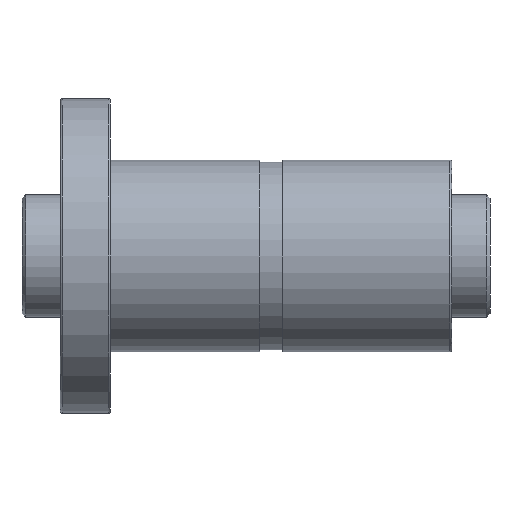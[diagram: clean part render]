
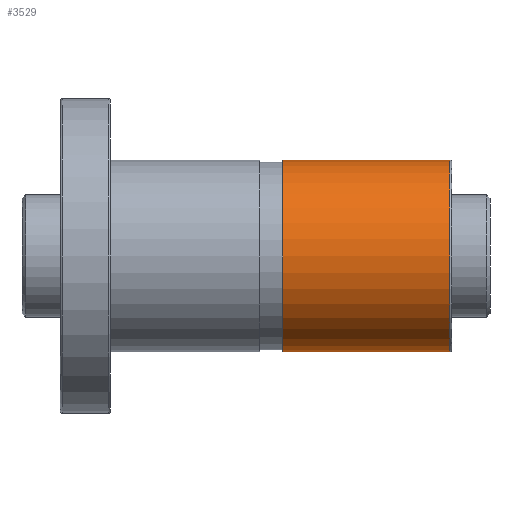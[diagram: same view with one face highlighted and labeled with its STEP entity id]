
A CAD part, front view. The second image highlights one B-rep face of the part: STEP entity #3529.
In plain terms, the highlighted cylindrical face has radius 25 mm (diameter 50 mm), a partial arc.
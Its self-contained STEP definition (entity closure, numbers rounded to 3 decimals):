
#160 = CIRCLE ( 'NONE', #3158, 25. ) ;
#623 = EDGE_CURVE ( 'NONE', #2245, #1831, #2127, .T. ) ;
#724 = VERTEX_POINT ( 'NONE', #4084 ) ;
#933 = LINE ( 'NONE', #4611, #4003 ) ;
#943 = DIRECTION ( 'NONE',  ( -1., 0., 0. ) ) ;
#1246 = CARTESIAN_POINT ( 'NONE',  ( 101.5, 0., 0. ) ) ;
#1342 = ORIENTED_EDGE ( 'NONE', *, *, #623, .T. ) ;
#1511 = DIRECTION ( 'NONE',  ( 0., 0., 1. ) ) ;
#1781 = DIRECTION ( 'NONE',  ( 1., 0., 0. ) ) ;
#1831 = VERTEX_POINT ( 'NONE', #2768 ) ;
#1916 = AXIS2_PLACEMENT_3D ( 'NONE', #4114, #2630, #1511 ) ;
#2127 = CIRCLE ( 'NONE', #2176, 25. ) ;
#2176 = AXIS2_PLACEMENT_3D ( 'NONE', #1246, #3844, #2558 ) ;
#2245 = VERTEX_POINT ( 'NONE', #4184 ) ;
#2265 = ORIENTED_EDGE ( 'NONE', *, *, #3561, .T. ) ;
#2473 = ORIENTED_EDGE ( 'NONE', *, *, #3716, .T. ) ;
#2543 = VERTEX_POINT ( 'NONE', #2561 ) ;
#2558 = DIRECTION ( 'NONE',  ( 0., 0., -1. ) ) ;
#2561 = CARTESIAN_POINT ( 'NONE',  ( 58., 0., -25. ) ) ;
#2630 = DIRECTION ( 'NONE',  ( -1., 0., 0. ) ) ;
#2670 = FACE_OUTER_BOUND ( 'NONE', #2874, .T. ) ;
#2721 = ORIENTED_EDGE ( 'NONE', *, *, #3248, .F. ) ;
#2768 = CARTESIAN_POINT ( 'NONE',  ( 101.5, 0., 25. ) ) ;
#2874 = EDGE_LOOP ( 'NONE', ( #2721, #1342, #2265, #2473 ) ) ;
#2894 = LINE ( 'NONE', #3758, #4113 ) ;
#3048 = DIRECTION ( 'NONE',  ( -1., 0., 0. ) ) ;
#3158 = AXIS2_PLACEMENT_3D ( 'NONE', #3265, #1781, #3252 ) ;
#3248 = EDGE_CURVE ( 'NONE', #2245, #2543, #933, .T. ) ;
#3252 = DIRECTION ( 'NONE',  ( 0., 0., -1. ) ) ;
#3265 = CARTESIAN_POINT ( 'NONE',  ( 58., 0., 0. ) ) ;
#3529 = ADVANCED_FACE ( 'NONE', ( #2670 ), #4239, .T. ) ;
#3561 = EDGE_CURVE ( 'NONE', #1831, #724, #2894, .T. ) ;
#3716 = EDGE_CURVE ( 'NONE', #724, #2543, #160, .T. ) ;
#3758 = CARTESIAN_POINT ( 'NONE',  ( 102., 0., 25. ) ) ;
#3844 = DIRECTION ( 'NONE',  ( -1., 0., 0. ) ) ;
#4003 = VECTOR ( 'NONE', #943, 1000. ) ;
#4084 = CARTESIAN_POINT ( 'NONE',  ( 58., 0., 25. ) ) ;
#4113 = VECTOR ( 'NONE', #3048, 1000. ) ;
#4114 = CARTESIAN_POINT ( 'NONE',  ( 102., 0., 0. ) ) ;
#4184 = CARTESIAN_POINT ( 'NONE',  ( 101.5, 0., -25. ) ) ;
#4239 = CYLINDRICAL_SURFACE ( 'NONE', #1916, 25. ) ;
#4611 = CARTESIAN_POINT ( 'NONE',  ( 102., 0., -25. ) ) ;
